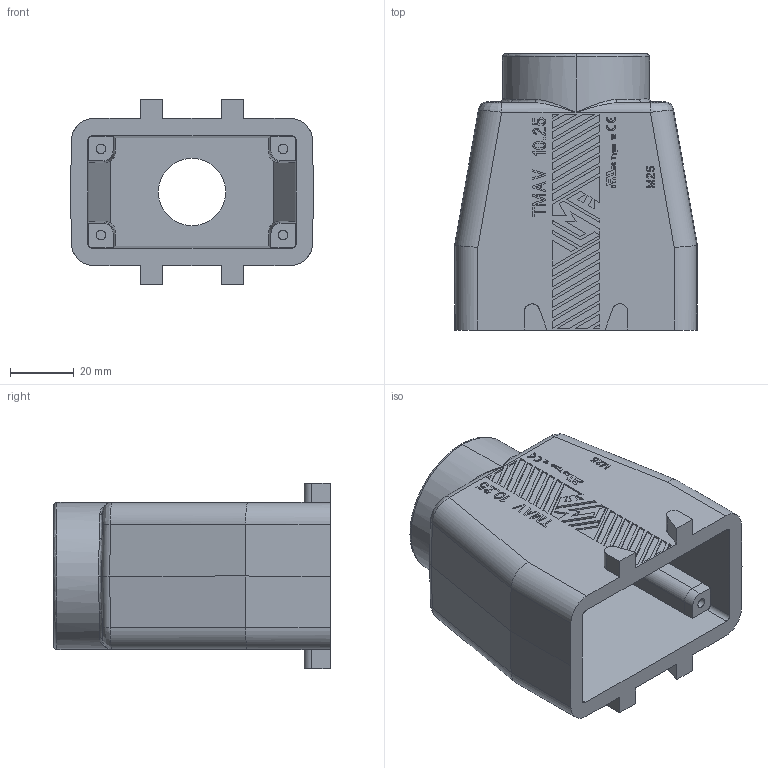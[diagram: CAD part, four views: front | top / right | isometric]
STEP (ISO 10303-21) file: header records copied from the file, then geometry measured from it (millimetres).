
FILE_DESCRIPTION (( 'STEP AP203' ), '1' );
FILE_NAME ('TMAV-10.25.STEP', '2016-04-20T18:59:25', ( 'Mencom User' ), ( 'Hewlett-Packard Company' ), 'SwSTEP 2.0', 'SolidWorks 2015', '' );
FILE_SCHEMA (( 'CONFIG_CONTROL_DESIGN' ));
Length unit declared in the file: inch
Products named in the file (1): TMAV-10.25
Bounding box: 76 x 86.49 x 58 mm (x, y, z)
Volume: 115972.9 mm3; surface area: 39154.9 mm2
Topology: 1 solids, 5 shells, 1206 faces, 3397 edges, 2240 vertices
Faces by surface type: plane 1058, bspline 74, cylinder 62, cone 12
Entity records: 45517 total; most frequent: CARTESIAN_POINT 15656, ORIENTED_EDGE 6786, DIRECTION 5153, EDGE_CURVE 3393, VECTOR 2751, LINE 2751, VERTEX_POINT 2240, EDGE_LOOP 1283
